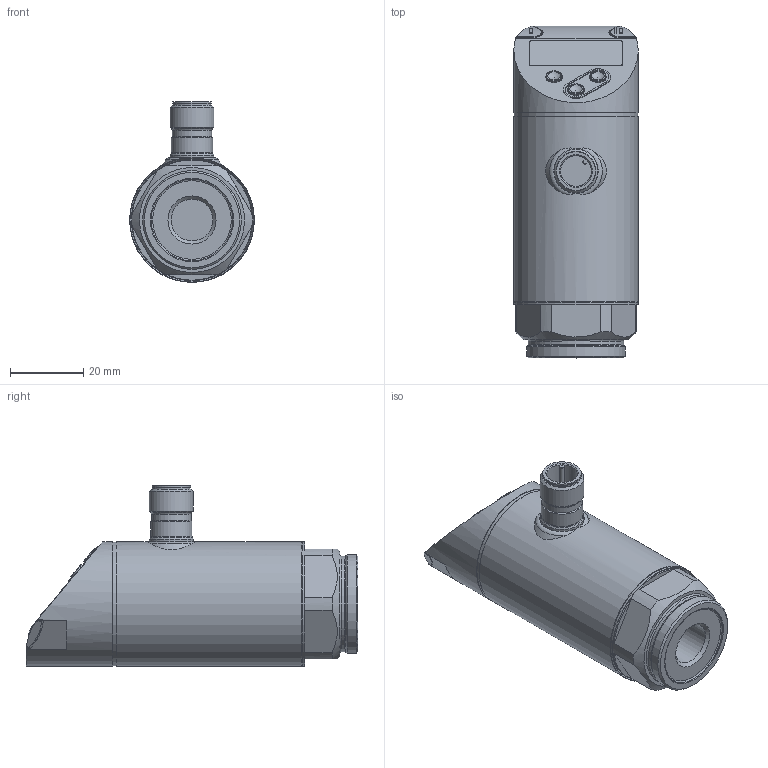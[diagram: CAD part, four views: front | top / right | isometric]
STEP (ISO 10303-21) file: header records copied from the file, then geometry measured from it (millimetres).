
FILE_DESCRIPTION( ( 'STEP AP203' ), ' ' );
FILE_NAME( 'p:/temp/worker_71/2100_4428/app_43_02016051809344645251080192d056f_000000_00_00_000000/format_1/PN2160.stp', '2016-05-18T07:34:48', ( '' ), ( '' ), ' ', 'PARTsolutions', ' ' );
FILE_SCHEMA( ( 'CONFIG_CONTROL_DESIGN' ) );
Length unit declared in the file: millimetre
Products named in the file (1): _PN2160
Bounding box: 34.1 x 90.7 x 49.4 mm (x, y, z)
Volume: 71794.7 mm3; surface area: 12127.7 mm2
Topology: 1 solids, 1 shells, 176 faces, 439 edges, 286 vertices
Faces by surface type: plane 85, cylinder 63, torus 13, cone 12, sphere 3
Full cylindrical faces by diameter (mm): 4.45 x3, 8.45 x1, 10.39 x1, 10.55 x1, 10.8 x1, 11.3 x1, 11.445 x1, 12 x2, 26 x1, 27 x1, 32.88 x1, 33.8 x1, 34 x2, 34.1 x1
Entity records: 5352 total; most frequent: CARTESIAN_POINT 1301, DIRECTION 838, ORIENTED_EDGE 770, EDGE_CURVE 385, AXIS2_PLACEMENT_3D 326, VERTEX_POINT 277, EDGE_LOOP 239, FACE_OUTER_BOUND 205
